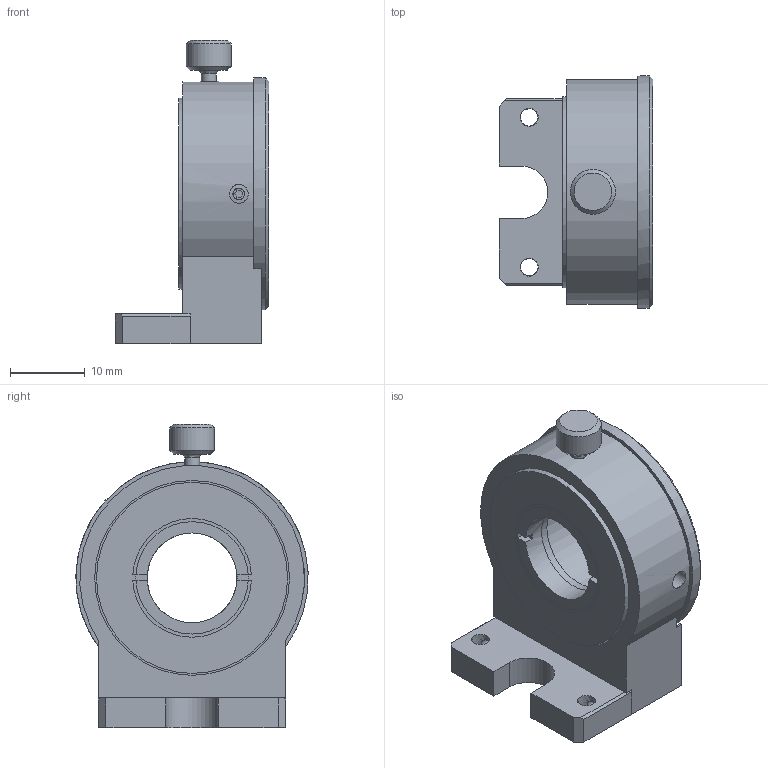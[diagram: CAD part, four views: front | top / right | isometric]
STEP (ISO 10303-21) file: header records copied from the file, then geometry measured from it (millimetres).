
FILE_DESCRIPTION((''),'2;1');
FILE_NAME('T:\Public\7_3次元データ\1図面ﾃﾞｰﾀ\2_OpticalHard\01_国内製品\2_Holders\MPH\MPH-15B\MPH-15B.stp','2009-05-22T15:44:26',('okegawa'),(''),'Autodesk Inventor 2008','Autodesk Inventor 2008','');
FILE_SCHEMA(('AUTOMOTIVE_DESIGN { 1 0 10303 214 1 1 1 1 }'));
Length unit declared in the file: millimetre
Products named in the file (1): MPH-15B-C1-S03.iam
Bounding box: 20.5 x 30.98 x 40.5 mm (x, y, z)
Volume: 8906.7 mm3; surface area: 7061.8 mm2
Topology: 1 solids, 6 shells, 174 faces, 399 edges, 261 vertices
Faces by surface type: plane 109, cylinder 29, bspline 22, cone 14
Full cylindrical faces by diameter (mm): 1.4 x1, 2 x3, 2.5 x1, 3.8 x2, 6 x1, 15 x1, 18 x1, 18.5 x3, 21 x1, 21.5 x3, 21.6 x1, 25 x1, 25.5 x3, 26 x1, 31 x1
Entity records: 5276 total; most frequent: CARTESIAN_POINT 1675, DIRECTION 719, ORIENTED_EDGE 628, EDGE_CURVE 314, EDGE_LOOP 285, AXIS2_PLACEMENT_3D 268, VERTEX_POINT 237, VECTOR 183
